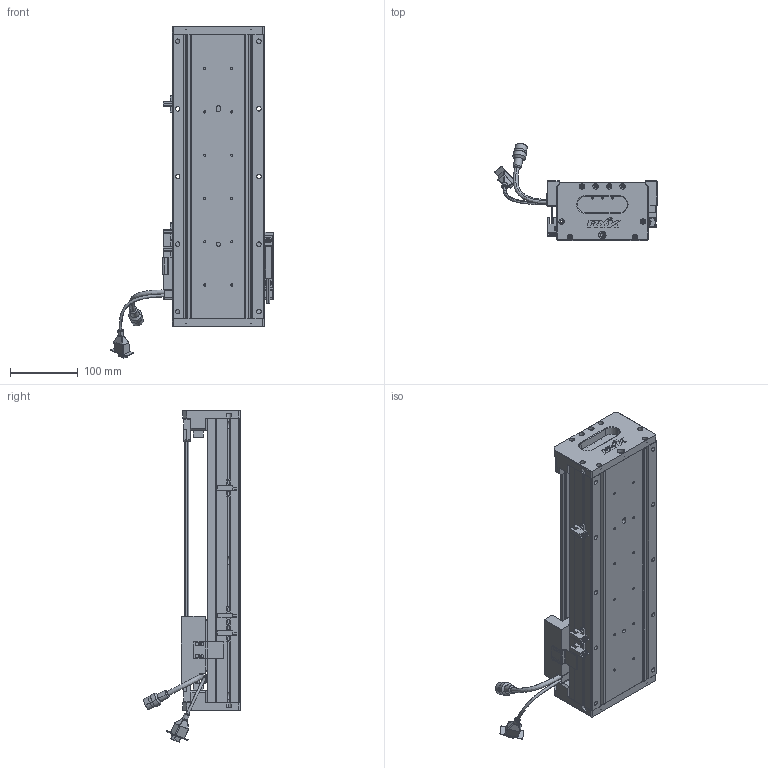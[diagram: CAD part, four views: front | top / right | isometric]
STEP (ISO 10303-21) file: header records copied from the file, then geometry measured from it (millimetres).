
FILE_DESCRIPTION (( 'STEP AP203' ), '1' );
FILE_NAME ('Z1-RY140D-1-L500-B-K.SLDASM_0250.step', '2021-05-17T07:30:20', ( '盈信电脑' ), ( '东莞市道滘镇水果街19号' ), 'SwSTEP 2.0', 'SolidWorks 2016', '' );
FILE_SCHEMA (( 'CONFIG_CONTROL_DESIGN' ));
Length unit declared in the file: millimetre
Products named in the file (36): SCREW-M1.6-3; HARNESS-Part-1; SCREW-M1.7-1; 140雄赽晤鎢ん堤盄; HARNESS; 榋妏寠巭燃_暯_M2_2; SCREW-M1.6-2; SEAL; COVER; HOLDER0; Z-140詩湍傷裔啣; LABEL; SCALE; SCALE-Part-1; 覜茼ん672; PSLH080_PSLF2; 080黍杅芛假蚾釱21遴; LABEL-Part-1; HARNESS-Part-2; SCREW-M1.7; Z1-RY140-L500詩湍100mm遵_0250; PBU_SHEET; Z1-RY140圉猾敕臏賑輸(21遴); Z1-RY140D-1-L500-B-K.SLDASM_0250; SCALE-Part-2; SCREW-M1.6; SEAL-Part-1; SCREW-M1.6-1; Z-RY140感应器672光电感应片; 140-Z-臏賑輸盄裔(21遴); COVER-Part-1; Z1-RY140-L500直线电机模组底座_0250; 140蚥薯蝶輸; Z-RY140詩湍奻揤裔; SHIELDPLATE; Z-RY140詩湍狟揤裔
Assembly tree (41 placements, depth 4):
  Z1-RY140D-1-L500-B-K.SLDASM_0250
    Z1-RY140-L500直线电机模组底座_0250
    Z-RY140感应器672光电感应片
    Z1-RY140圉猾敕臏賑輸(21遴)
    覜茼ん672  x3
    Z1-RY140-L500詩湍100mm遵_0250
    PSLH080_PSLF2
      SCALE
        SCALE-Part-1
        SCALE-Part-2
      HARNESS
        HARNESS-Part-1
        HARNESS-Part-2
      LABEL
        LABEL-Part-1
      COVER
        COVER-Part-1
      SEAL
        SEAL-Part-1
      榋妏寠巭燃_暯_M2_2
      SHIELDPLATE
      SCREW-M1.7
      SCREW-M1.7-1
      PBU_SHEET
      SCREW-M1.6
      SCREW-M1.6-1
      SCREW-M1.6-2
      SCREW-M1.6-3
      HOLDER0
    080黍杅芛假蚾釱21遴
    140-Z-臏賑輸盄裔(21遴)
    Z-140詩湍傷裔啣  x2
    Z-RY140詩湍狟揤裔  x2
    Z-RY140詩湍奻揤裔  x2
    140蚥薯蝶輸  x2
    140雄赽晤鎢ん堤盄
Bounding box: 239.84 x 143.88 x 490.88 mm (x, y, z)
Volume: 1986378.5 mm3; surface area: 541786.2 mm2
Topology: 36 solids, 36 shells, 2486 faces, 6460 edges, 4101 vertices
Faces by surface type: cylinder 1074, plane 1064, cone 226, torus 69, bspline 53
Entity records: 69788 total; most frequent: CARTESIAN_POINT 16707, DIRECTION 10316, ORIENTED_EDGE 10160, EDGE_CURVE 5080, AXIS2_PLACEMENT_3D 3742, VERTEX_POINT 3269, LINE 2832, VECTOR 2832
